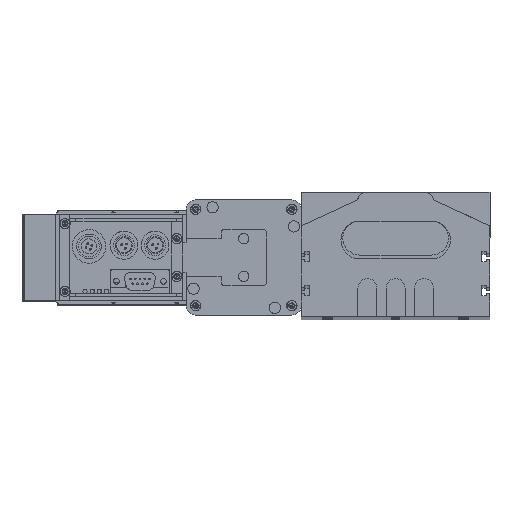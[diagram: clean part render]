
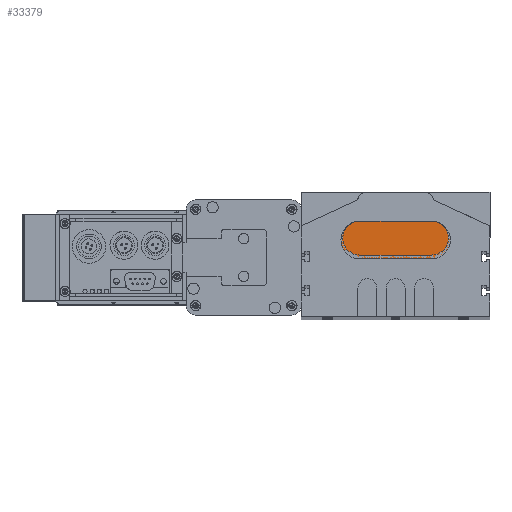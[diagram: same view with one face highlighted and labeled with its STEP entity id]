
A CAD part, top view. The second image highlights one B-rep face of the part: STEP entity #33379.
In plain terms, the highlighted planar face has unit normal (0, 0, 1).
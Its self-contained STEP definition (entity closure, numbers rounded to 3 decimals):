
#1311 = VERTEX_POINT ( 'NONE', #25190 ) ;
#1324 = VERTEX_POINT ( 'NONE', #25209 ) ;
#1342 = VERTEX_POINT ( 'NONE', #25253 ) ;
#9131 = AXIS2_PLACEMENT_3D ( 'NONE', #9161, #9423, #9422 ) ;
#9161 = CARTESIAN_POINT ( 'NONE',  ( 0., 10., 10. ) ) ;
#9422 = DIRECTION ( 'NONE',  ( 1., 0., 0. ) ) ;
#9423 = DIRECTION ( 'NONE',  ( 0., 0., 1. ) ) ;
#10606 = CIRCLE ( 'NONE', #9131, 10. ) ;
#10685 = CARTESIAN_POINT ( 'NONE',  ( 38., 0., 10. ) ) ;
#10969 = DIRECTION ( 'NONE',  ( 1., 0., 0. ) ) ;
#10970 = DIRECTION ( 'NONE',  ( 0., 0., 1. ) ) ;
#10971 = CARTESIAN_POINT ( 'NONE',  ( 0., 10., 10. ) ) ;
#10972 = AXIS2_PLACEMENT_3D ( 'NONE', #10971, #10970, #10969 ) ;
#10973 = CIRCLE ( 'NONE', #10972, 10. ) ;
#11042 = DIRECTION ( 'NONE',  ( 1., 0., 0. ) ) ;
#11043 = VECTOR ( 'NONE', #11042, 1000. ) ;
#11044 = CARTESIAN_POINT ( 'NONE',  ( 0., 0., 10. ) ) ;
#11045 = LINE ( 'NONE', #11044, #11043 ) ;
#11203 = DIRECTION ( 'NONE',  ( -1., 0., 0. ) ) ;
#11204 = VECTOR ( 'NONE', #11203, 1000. ) ;
#11205 = CARTESIAN_POINT ( 'NONE',  ( 0., 20., 10. ) ) ;
#11206 = LINE ( 'NONE', #11205, #11204 ) ;
#11329 = DIRECTION ( 'NONE',  ( -1., 0., 0. ) ) ;
#11331 = AXIS2_PLACEMENT_3D ( 'NONE', #11338, #11355, #11329 ) ;
#11335 = CIRCLE ( 'NONE', #11331, 10. ) ;
#11338 = CARTESIAN_POINT ( 'NONE',  ( 38., 10., 10. ) ) ;
#11355 = DIRECTION ( 'NONE',  ( 0., 0., 1. ) ) ;
#11384 = CARTESIAN_POINT ( 'NONE',  ( 38., 20., 10. ) ) ;
#11391 = PLANE ( 'NONE',  #11420 ) ;
#11412 = FACE_OUTER_BOUND ( 'NONE', #32933, .T. ) ;
#11420 = AXIS2_PLACEMENT_3D ( 'NONE', #11442, #11455, #11454 ) ;
#11442 = CARTESIAN_POINT ( 'NONE',  ( 0., 10., 10. ) ) ;
#11454 = DIRECTION ( 'NONE',  ( 1., 0., 0. ) ) ;
#11455 = DIRECTION ( 'NONE',  ( 0., 0., 1. ) ) ;
#25190 = CARTESIAN_POINT ( 'NONE',  ( -10., 10., 10. ) ) ;
#25209 = CARTESIAN_POINT ( 'NONE',  ( 0., 0., 10. ) ) ;
#25253 = CARTESIAN_POINT ( 'NONE',  ( 0., 20., 10. ) ) ;
#28824 = VERTEX_POINT ( 'NONE', #10685 ) ;
#30759 = ORIENTED_EDGE ( 'NONE', *, *, #30767, .T. ) ;
#30767 = EDGE_CURVE ( 'NONE', #1342, #1311, #10606, .T. ) ;
#30858 = EDGE_CURVE ( 'NONE', #1311, #1324, #10973, .T. ) ;
#31288 = EDGE_CURVE ( 'NONE', #1324, #28824, #11045, .T. ) ;
#31835 = ORIENTED_EDGE ( 'NONE', *, *, #33333, .T. ) ;
#32650 = EDGE_CURVE ( 'NONE', #33344, #1342, #11206, .T. ) ;
#32933 = EDGE_LOOP ( 'NONE', ( #30759, #33466, #33391, #31835, #33385 ) ) ;
#33333 = EDGE_CURVE ( 'NONE', #28824, #33344, #11335, .T. ) ;
#33344 = VERTEX_POINT ( 'NONE', #11384 ) ;
#33379 = ADVANCED_FACE ( 'NONE', ( #11412 ), #11391, .T. ) ;
#33385 = ORIENTED_EDGE ( 'NONE', *, *, #32650, .T. ) ;
#33391 = ORIENTED_EDGE ( 'NONE', *, *, #31288, .T. ) ;
#33466 = ORIENTED_EDGE ( 'NONE', *, *, #30858, .T. ) ;
